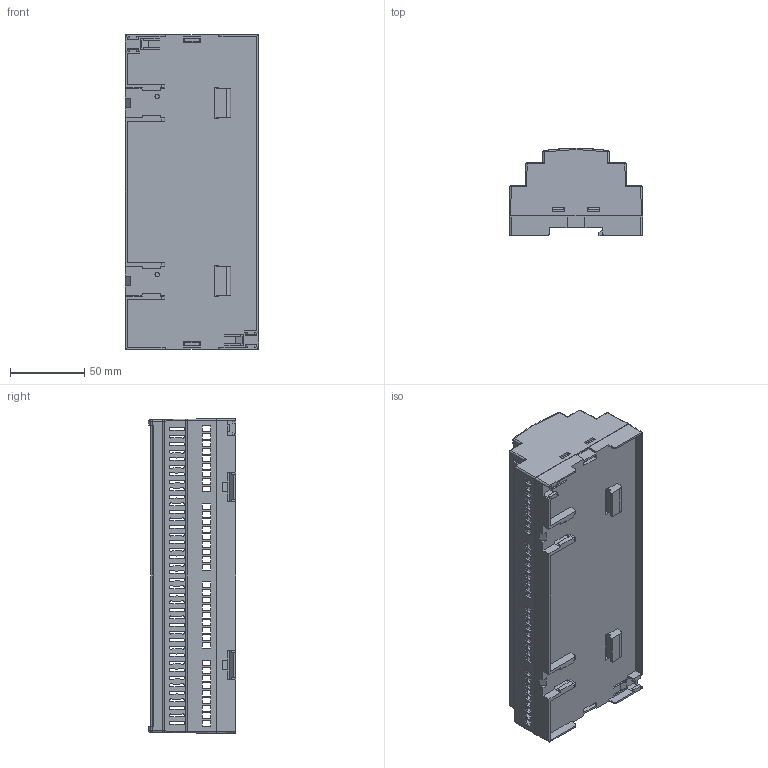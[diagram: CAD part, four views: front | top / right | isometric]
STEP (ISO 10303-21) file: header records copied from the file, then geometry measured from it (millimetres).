
FILE_DESCRIPTION (( 'STEP AP203' ), '1' );
FILE_NAME ('RT-212-C.STEP', '2025-08-14T13:58:41', ( '' ), ( '' ), 'SwSTEP 2.0', 'SolidWorks 2021', '' );
FILE_SCHEMA (( 'CONFIG_CONTROL_DESIGN' ));
Length unit declared in the file: millimetre
Products named in the file (4): RT-212-25_RT-212-25-M3; RT-212-C; RT-212-P-2_C; RT-212-P-1
Assembly tree (3 placements, depth 2):
  RT-212-C
    RT-212-P-1
    RT-212-P-2_C
    RT-212-25_RT-212-25-M3
Bounding box: 90 x 58.9 x 212.1 mm (x, y, z)
Volume: 133026.9 mm3; surface area: 144260.9 mm2
Topology: 3 solids, 3 shells, 1707 faces, 5081 edges, 3372 vertices
Faces by surface type: cylinder 932, plane 724, bspline 23, cone 16, sphere 12
Entity records: 58963 total; most frequent: CARTESIAN_POINT 16279, ORIENTED_EDGE 10146, DIRECTION 7214, EDGE_CURVE 5073, VERTEX_POINT 3372, VECTOR 3080, LINE 3080, EDGE_LOOP 2197
